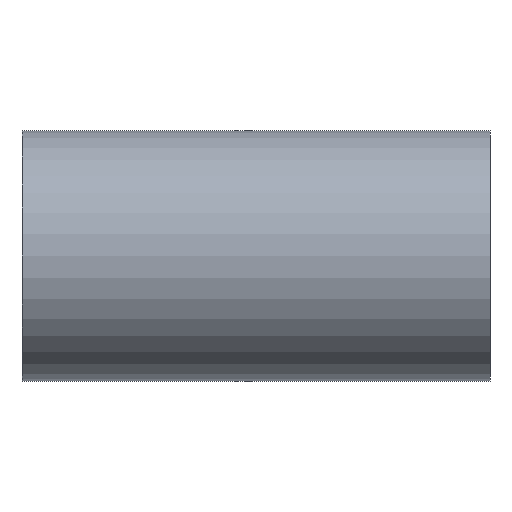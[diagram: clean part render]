
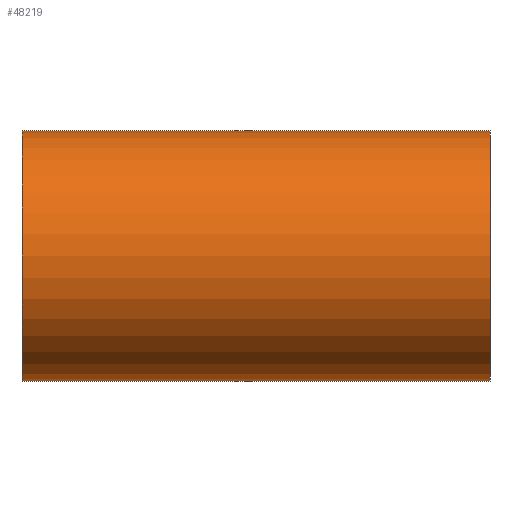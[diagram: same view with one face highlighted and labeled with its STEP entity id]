
A CAD part, front view. The second image highlights one B-rep face of the part: STEP entity #48219.
In plain terms, the highlighted cylindrical face has radius 244.475 mm (diameter 488.95 mm), a partial arc.
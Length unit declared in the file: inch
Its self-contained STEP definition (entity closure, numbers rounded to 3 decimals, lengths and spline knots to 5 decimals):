
#545 = FACE_OUTER_BOUND ( 'NONE', #33206, .T. ) ;
#1464 = AXIS2_PLACEMENT_3D ( 'NONE', #24032, #4474, #43784 ) ;
#4150 = DIRECTION ( 'NONE',  ( 0., 0., 1. ) ) ;
#4474 = DIRECTION ( 'NONE',  ( -1., 0., 0. ) ) ;
#6819 = CARTESIAN_POINT ( 'NONE',  ( -18., 0., -9.625 ) ) ;
#7842 = AXIS2_PLACEMENT_3D ( 'NONE', #12949, #13450, #36078 ) ;
#9959 = ORIENTED_EDGE ( 'NONE', *, *, #23539, .T. ) ;
#10954 = CARTESIAN_POINT ( 'NONE',  ( 18., 0., 9.625 ) ) ;
#11111 = DIRECTION ( 'NONE',  ( 1., 0., 0. ) ) ;
#12949 = CARTESIAN_POINT ( 'NONE',  ( -18., 0., 0. ) ) ;
#13054 = VECTOR ( 'NONE', #11111, 39.37008 ) ;
#13450 = DIRECTION ( 'NONE',  ( -1., 0., 0. ) ) ;
#13757 = CIRCLE ( 'NONE', #1464, 9.625 ) ;
#15302 = VERTEX_POINT ( 'NONE', #37829 ) ;
#20135 = EDGE_CURVE ( 'NONE', #22115, #43836, #49115, .T. ) ;
#20629 = CYLINDRICAL_SURFACE ( 'NONE', #31646, 9.625 ) ;
#20817 = ORIENTED_EDGE ( 'NONE', *, *, #49068, .F. ) ;
#21799 = VECTOR ( 'NONE', #37323, 39.37008 ) ;
#22115 = VERTEX_POINT ( 'NONE', #46164 ) ;
#23539 = EDGE_CURVE ( 'Defeatured_326319+Defeatured_326317+Defeatured_326317+Defeatured_326317', #15302, #43836, #13757, .T. ) ;
#24032 = CARTESIAN_POINT ( 'NONE',  ( 18., 0., 0. ) ) ;
#25613 = EDGE_CURVE ( 'NONE', #45427, #15302, #34251, .T. ) ;
#30187 = ORIENTED_EDGE ( 'NONE', *, *, #20135, .F. ) ;
#30958 = ORIENTED_EDGE ( 'NONE', *, *, #25613, .T. ) ;
#31646 = AXIS2_PLACEMENT_3D ( 'NONE', #32425, #36523, #4150 ) ;
#32425 = CARTESIAN_POINT ( 'NONE',  ( -18., 0., 0. ) ) ;
#33206 = EDGE_LOOP ( 'NONE', ( #20817, #30958, #9959, #30187 ) ) ;
#34251 = LINE ( 'NONE', #42705, #13054 ) ;
#36078 = DIRECTION ( 'NONE',  ( 0., 0., -1. ) ) ;
#36523 = DIRECTION ( 'NONE',  ( 1., 0., 0. ) ) ;
#37323 = DIRECTION ( 'NONE',  ( 1., 0., 0. ) ) ;
#37829 = CARTESIAN_POINT ( 'NONE',  ( 18., 0., -9.625 ) ) ;
#41172 = CARTESIAN_POINT ( 'NONE',  ( -18., 0., 9.625 ) ) ;
#42705 = CARTESIAN_POINT ( 'NONE',  ( -18., 0., -9.625 ) ) ;
#43784 = DIRECTION ( 'NONE',  ( 0., 0., -1. ) ) ;
#43836 = VERTEX_POINT ( 'NONE', #10954 ) ;
#45427 = VERTEX_POINT ( 'NONE', #6819 ) ;
#45592 = CIRCLE ( 'NONE', #7842, 9.625 ) ;
#46164 = CARTESIAN_POINT ( 'NONE',  ( -18., 0., 9.625 ) ) ;
#48219 = ADVANCED_FACE ( 'Defeatured_326319', ( #545 ), #20629, .T. ) ;
#49068 = EDGE_CURVE ( 'Defeatured_326318+Defeatured_326319+Defeatured_326319+Defeatured_326319', #45427, #22115, #45592, .T. ) ;
#49115 = LINE ( 'NONE', #41172, #21799 ) ;
